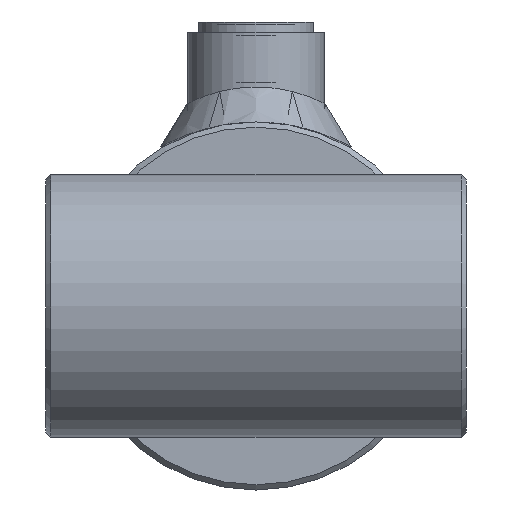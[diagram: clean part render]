
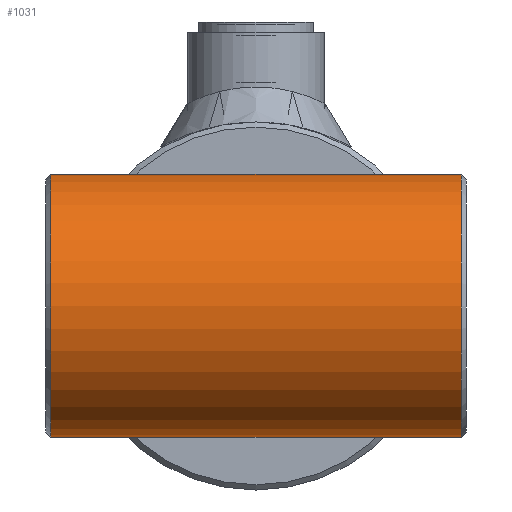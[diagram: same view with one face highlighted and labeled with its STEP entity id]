
A CAD part, left-side view. The second image highlights one B-rep face of the part: STEP entity #1031.
In plain terms, the highlighted cylindrical face has radius 25 mm (diameter 50 mm), a full revolution.
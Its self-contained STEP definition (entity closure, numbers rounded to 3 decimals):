
#1031 = ADVANCED_FACE( '', ( #1952, #1953 ), #1954, .T. );
#1952 = FACE_OUTER_BOUND( '', #7063, .T. );
#1953 = FACE_OUTER_BOUND( '', #7064, .T. );
#1954 = CYLINDRICAL_SURFACE( '', #7065, 25. );
#7063 = EDGE_LOOP( '', ( #12191 ) );
#7064 = EDGE_LOOP( '', ( #12192 ) );
#7065 = AXIS2_PLACEMENT_3D( '', #12193, #12194, #12195 );
#12191 = ORIENTED_EDGE( '', *, *, #13468, .T. );
#12192 = ORIENTED_EDGE( '', *, *, #13309, .T. );
#12193 = CARTESIAN_POINT( '', ( 0., -40., 0. ) );
#12194 = DIRECTION( '', ( 0., -1., 0. ) );
#12195 = DIRECTION( '', ( 0., 0., 1. ) );
#13309 = EDGE_CURVE( '', #14341, #14341, #14342, .T. );
#13468 = EDGE_CURVE( '', #14559, #14559, #14560, .F. );
#14341 = VERTEX_POINT( '', #16751 );
#14342 = CIRCLE( '', #16752, 25. );
#14559 = VERTEX_POINT( '', #17504 );
#14560 = CIRCLE( '', #17505, 25. );
#16751 = CARTESIAN_POINT( '', ( 0., -39., 25. ) );
#16752 = AXIS2_PLACEMENT_3D( '', #18566, #18567, #18568 );
#17504 = CARTESIAN_POINT( '', ( 0., 39., 25. ) );
#17505 = AXIS2_PLACEMENT_3D( '', #18684, #18685, #18686 );
#18566 = CARTESIAN_POINT( '', ( 0., -39., 0. ) );
#18567 = DIRECTION( '', ( 0., 1., 0. ) );
#18568 = DIRECTION( '', ( 0., 0., 1. ) );
#18684 = CARTESIAN_POINT( '', ( 0., 39., 0. ) );
#18685 = DIRECTION( '', ( 0., 1., 0. ) );
#18686 = DIRECTION( '', ( 0., 0., 1. ) );
